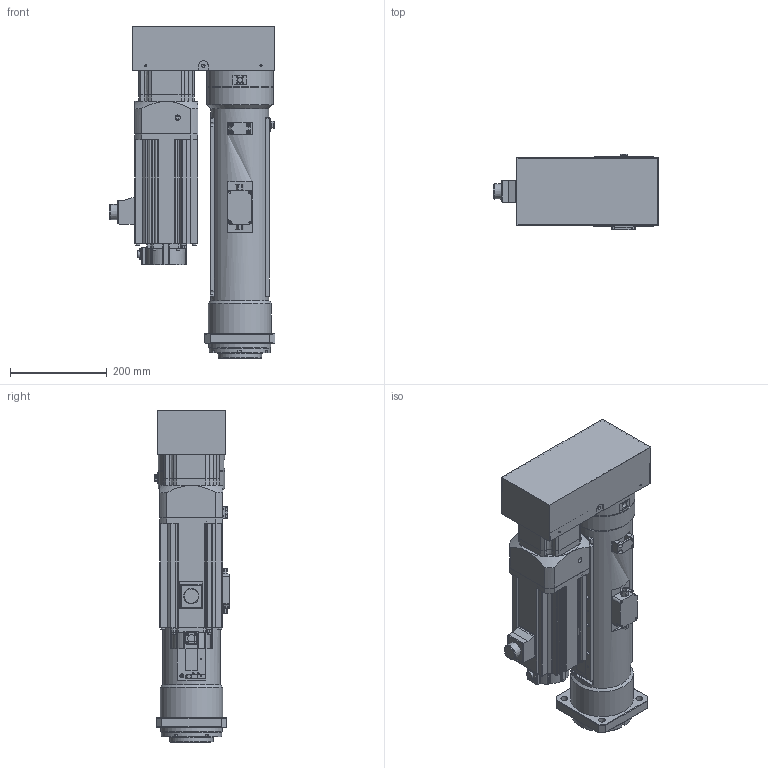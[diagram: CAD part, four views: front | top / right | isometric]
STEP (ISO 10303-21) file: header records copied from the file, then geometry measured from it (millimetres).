
FILE_DESCRIPTION( ('This file contains a STEP AP42 implementation' ,'as created by ZW3D STEP Interface translator.') ,'2;1' );
FILE_NAME( 'OACIS-DC-P060-P070-300-150-A6_V20.01.stp' ,'25 3 8. 95429', (''), ('ZWCAD Software Co.'), 'Version 1.0', 'ZW3D to STEP translator', '' );
FILE_SCHEMA(('AUTOMOTIVE_DESIGN { 1 0 10303 214 1 1 1 1 }'));
Length unit declared in the file: millimetre
Products named in the file (2): 0; OACIS-DC-P060-P070-300-150-A6_V20.01
Bounding box: 343 x 155 x 686.5 mm (x, y, z)
Volume: 11285107.8 mm3; surface area: 1645895.2 mm2
Topology: 21 solids, 26 shells, 1792 faces, 4616 edges, 2999 vertices
Faces by surface type: plane 769, cylinder 661, cone 194, bspline 134, torus 30, sphere 4
Full cylindrical faces by diameter (mm): 1.567 x4, 2 x1, 2.459 x1, 3.3 x83, 4.2 x4, 4.3 x26, 4.5 x14, 4.917 x12, 5 x1, 5.3 x4, 5.5 x4, 6.5 x4, 6.8 x40, 7 x4, 8 x26, 8.4 x8, 8.5 x4, 9 x14, 9.5 x4, 10 x3, 10.1 x4, 10.2 x16, 10.5 x4, 12 x1, 14 x4, 14.8 x1, 15 x8, 16.5 x2, 17.5 x1, 18 x2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
Entity records: 60274 total; most frequent: CARTESIAN_POINT 14628, DIRECTION 9099, ORIENTED_EDGE 9043, EDGE_CURVE 4529, AXIS2_PLACEMENT_3D 3368, VERTEX_POINT 2996, VECTOR 2363, LINE 2363
